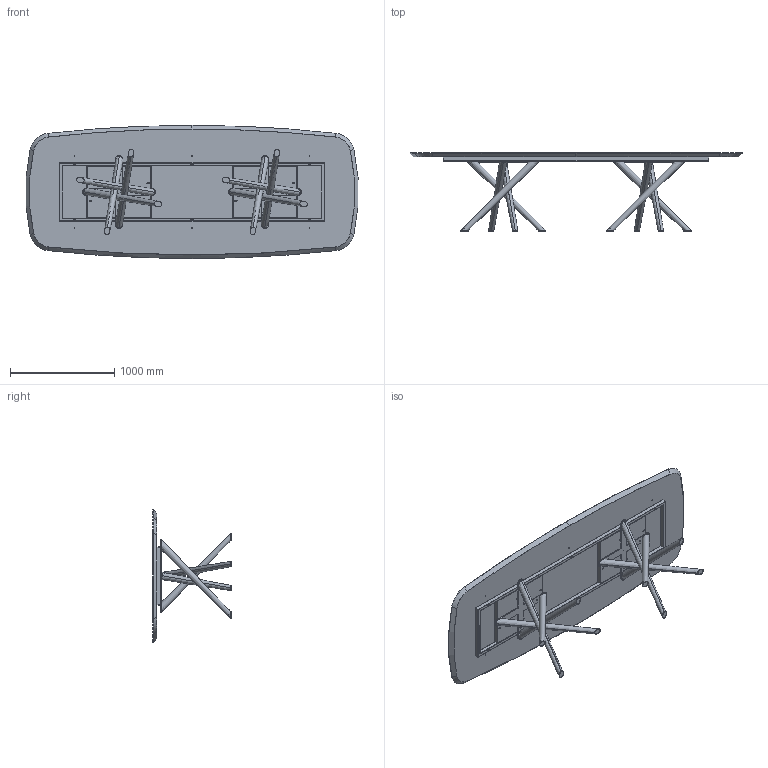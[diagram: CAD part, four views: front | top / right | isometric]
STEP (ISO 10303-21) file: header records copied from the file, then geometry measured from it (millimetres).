
FILE_DESCRIPTION (( 'STEP AP203' ), '1' );
FILE_NAME ('BA45W.STEP', '2024-08-08T05:55:31', ( '' ), ( '' ), 'SwSTEP 2.0', 'SolidWorks 2022', '' );
FILE_SCHEMA (( 'CONFIG_CONTROL_DESIGN' ));
Length unit declared in the file: millimetre
Products named in the file (9): BAB000000_01-00-Croce Superiore baly; TTAV03-06-TELAIO UNIVERSALE X TAVOLI 300-340cm; BA45W; TTAV03_02-06-VASSOIO IRRIGIDIMENTO TELAIO UNIVERSALE RETTANGOLARE; Parte5^BAB000000-00-BALY BASE GREZZA; BAB000000_02-00-basamento pali conificati; BAB000000-00-BALY BASE GREZZA; W4XCMXX-00-Piani Sagomati legno_3200 x 1280; TTAV03_01-06-RING TUBO TELAIO UNIVERSALE X TAVOLI 300-340cm
Assembly tree (10 placements, depth 3):
  BA45W
    W4XCMXX-00-Piani Sagomati legno_3200 x 1280
    TTAV03-06-TELAIO UNIVERSALE X TAVOLI 300-340cm
      TTAV03_01-06-RING TUBO TELAIO UNIVERSALE X TAVOLI 300-340cm
      TTAV03_02-06-VASSOIO IRRIGIDIMENTO TELAIO UNIVERSALE RETTANGOLARE  x2
    BAB000000-00-BALY BASE GREZZA  x2
      BAB000000_01-00-Croce Superiore baly
      BAB000000_02-00-basamento pali conificati
      Parte5^BAB000000-00-BALY BASE GREZZA
Bounding box: 3190.14 x 753 x 1280 mm (x, y, z)
Volume: 149024223.2 mm3; surface area: 14150296.6 mm2
Topology: 22 solids, 22 shells, 627 faces, 1534 edges, 933 vertices
Faces by surface type: plane 270, cylinder 227, cone 97, bspline 16, torus 9, sphere 8
Entity records: 14412 total; most frequent: CARTESIAN_POINT 3727, DIRECTION 2067, ORIENTED_EDGE 1954, EDGE_CURVE 977, AXIS2_PLACEMENT_3D 747, VERTEX_POINT 607, LINE 573, VECTOR 573
